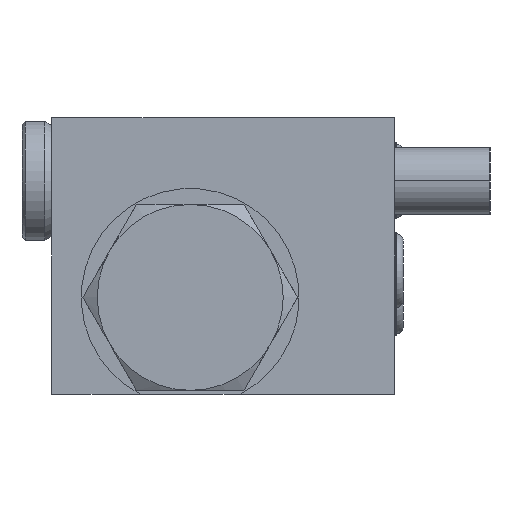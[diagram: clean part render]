
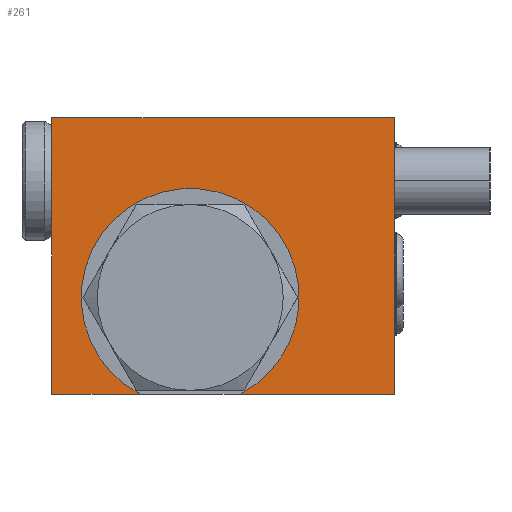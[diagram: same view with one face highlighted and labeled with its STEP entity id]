
A CAD part, left-side view. The second image highlights one B-rep face of the part: STEP entity #261.
In plain terms, the highlighted planar face has unit normal (-1, 0, 0).
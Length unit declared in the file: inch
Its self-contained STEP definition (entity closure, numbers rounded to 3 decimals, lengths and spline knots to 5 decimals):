
#71=DIRECTION('',(0.,-1.,0.));
#72=VECTOR('',#71,0.4166);
#73=CARTESIAN_POINT('',(-2.375,1.6135,-0.4555));
#74=LINE('',#73,#72);
#75=DIRECTION('',(0.,0.,-1.));
#76=VECTOR('',#75,1.3005);
#77=CARTESIAN_POINT('',(-2.375,1.6135,0.845));
#78=LINE('',#77,#76);
#79=DIRECTION('',(0.,1.,0.));
#80=VECTOR('',#79,1.6135);
#81=CARTESIAN_POINT('',(-2.375,0.,0.845));
#82=LINE('',#81,#80);
#83=DIRECTION('',(0.,0.,1.));
#84=VECTOR('',#83,1.3005);
#85=CARTESIAN_POINT('',(-2.375,0.,-0.4555));
#86=LINE('',#85,#84);
#87=DIRECTION('',(0.,-1.,0.));
#88=VECTOR('',#87,0.7271);
#89=CARTESIAN_POINT('',(-2.375,0.7271,-0.4555));
#90=LINE('',#89,#88);
#96=CARTESIAN_POINT('',(-2.375,0.962,0.));
#97=DIRECTION('',(1.,0.,0.));
#98=DIRECTION('',(0.,0.458,-0.889));
#99=AXIS2_PLACEMENT_3D('',#96,#97,#98);
#109=CARTESIAN_POINT('',(-2.375,0.,-0.4555));
#110=CARTESIAN_POINT('',(-2.375,0.,0.845));
#111=VERTEX_POINT('',#109);
#112=VERTEX_POINT('',#110);
#113=CARTESIAN_POINT('',(-2.375,1.6135,0.845));
#114=VERTEX_POINT('',#113);
#115=CARTESIAN_POINT('',(-2.375,1.6135,-0.4555));
#116=VERTEX_POINT('',#115);
#121=CARTESIAN_POINT('',(-2.375,0.7271,-0.4555));
#122=VERTEX_POINT('',#121);
#123=CARTESIAN_POINT('',(-2.375,1.1969,-0.4555));
#124=VERTEX_POINT('',#123);
#247=CARTESIAN_POINT('',(-2.375,0.,0.845));
#248=DIRECTION('',(-1.,0.,0.));
#249=DIRECTION('',(0.,0.,1.));
#250=AXIS2_PLACEMENT_3D('',#247,#248,#249);
#251=PLANE('',#250);
#253=ORIENTED_EDGE('',*,*,#252,.F.);
#254=ORIENTED_EDGE('',*,*,#189,.F.);
#255=ORIENTED_EDGE('',*,*,#214,.F.);
#256=ORIENTED_EDGE('',*,*,#228,.F.);
#257=ORIENTED_EDGE('',*,*,#241,.F.);
#258=ORIENTED_EDGE('',*,*,#197,.F.);
#259=EDGE_LOOP('',(#253,#254,#255,#256,#257,#258));
#260=FACE_OUTER_BOUND('',#259,.F.);
#261=ADVANCED_FACE('',(#260),#251,.T.);
#100=CIRCLE('',#99,0.5125);
#189=EDGE_CURVE('',#116,#124,#74,.T.);
#197=EDGE_CURVE('',#122,#111,#90,.T.);
#214=EDGE_CURVE('',#114,#116,#78,.T.);
#228=EDGE_CURVE('',#112,#114,#82,.T.);
#241=EDGE_CURVE('',#111,#112,#86,.T.);
#252=EDGE_CURVE('',#124,#122,#100,.T.);
